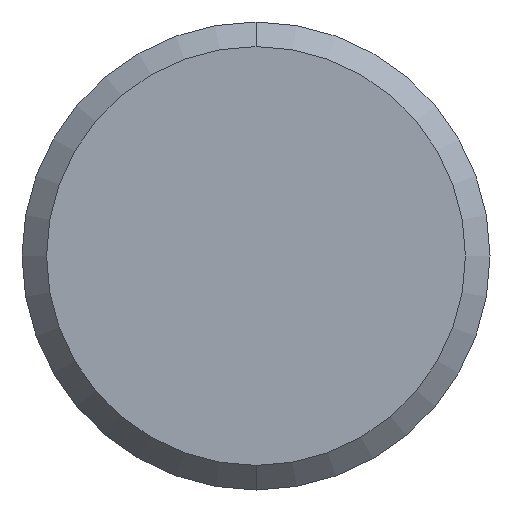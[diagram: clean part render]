
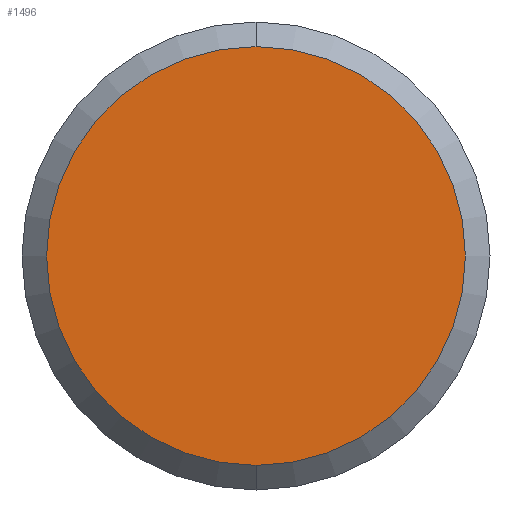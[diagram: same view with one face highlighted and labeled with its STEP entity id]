
A CAD part, front view. The second image highlights one B-rep face of the part: STEP entity #1496.
In plain terms, the highlighted planar face has unit normal (0, -1, 0).
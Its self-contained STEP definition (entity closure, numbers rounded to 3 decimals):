
#228 = CARTESIAN_POINT ( 'NONE',  ( 0., 0., 0. ) ) ;
#229 = DIRECTION ( 'NONE',  ( 0., -1., 0. ) ) ;
#230 = DIRECTION ( 'NONE',  ( 0., 0., -1. ) ) ;
#231 = CARTESIAN_POINT ( 'NONE',  ( 0., 0., 0. ) ) ;
#232 = DIRECTION ( 'NONE',  ( 0., -1., 0. ) ) ;
#233 = DIRECTION ( 'NONE',  ( 0., 0., -1. ) ) ;
#300 = AXIS2_PLACEMENT_3D ( 'NONE', #2164, #2167, #2168 ) ;
#389 = AXIS2_PLACEMENT_3D ( 'NONE', #228, #229, #230 ) ;
#390 = AXIS2_PLACEMENT_3D ( 'NONE', #231, #232, #233 ) ;
#554 = ORIENTED_EDGE ( 'NONE', *, *, #2322, .T. ) ;
#555 = ORIENTED_EDGE ( 'NONE', *, *, #2320, .T. ) ;
#601 = FACE_OUTER_BOUND ( 'NONE', #2026, .T. ) ;
#665 = VERTEX_POINT ( 'NONE', #708 ) ;
#673 = VERTEX_POINT ( 'NONE', #1765 ) ;
#708 = CARTESIAN_POINT ( 'NONE',  ( 0., 0., -8.525 ) ) ;
#1063 = CIRCLE ( 'NONE', #389, 8.525 ) ;
#1064 = CIRCLE ( 'NONE', #390, 8.525 ) ;
#1496 = ADVANCED_FACE ( 'NONE', ( #601 ), #2162, .T. ) ;
#1765 = CARTESIAN_POINT ( 'NONE',  ( 0., 0., 8.525 ) ) ;
#2026 = EDGE_LOOP ( 'NONE', ( #554, #555 ) ) ;
#2162 = PLANE ( 'NONE',  #300 ) ;
#2164 = CARTESIAN_POINT ( 'NONE',  ( -9.525, 0., 0. ) ) ;
#2167 = DIRECTION ( 'NONE',  ( 0., -1., 0. ) ) ;
#2168 = DIRECTION ( 'NONE',  ( 0., 0., -1. ) ) ;
#2320 = EDGE_CURVE ( 'NONE', #665, #673, #1063, .T. ) ;
#2322 = EDGE_CURVE ( 'NONE', #673, #665, #1064, .T. ) ;
